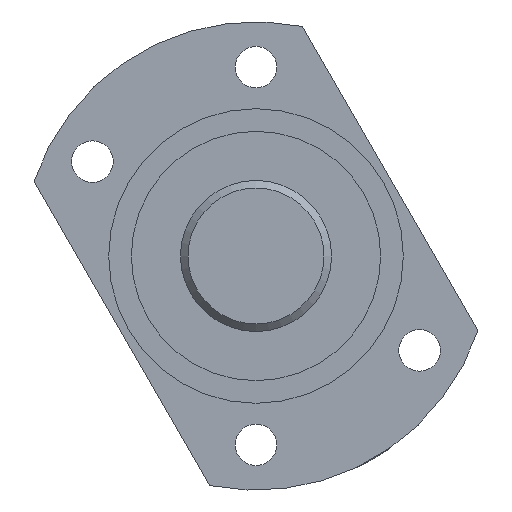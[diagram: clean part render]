
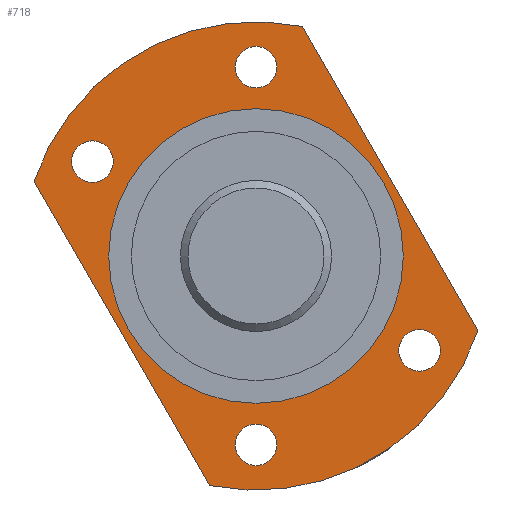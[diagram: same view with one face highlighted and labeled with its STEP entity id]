
A CAD part, left-side view. The second image highlights one B-rep face of the part: STEP entity #718.
In plain terms, the highlighted planar face has unit normal (-1, 0, 0).
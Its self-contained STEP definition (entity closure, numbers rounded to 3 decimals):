
#1 = EDGE_LOOP ( 'NONE', ( #794 ) ) ;
#14 = CARTESIAN_POINT ( 'NONE',  ( -75., -29.381, -9.889 ) ) ;
#37 = ORIENTED_EDGE ( 'NONE', *, *, #866, .T. ) ;
#40 = EDGE_LOOP ( 'NONE', ( #523 ) ) ;
#69 = VERTEX_POINT ( 'NONE', #286 ) ;
#83 = CARTESIAN_POINT ( 'NONE',  ( -75., 33.254, 16.597 ) ) ;
#90 = DIRECTION ( 'NONE',  ( 0., 0.5, 0.866 ) ) ;
#98 = ORIENTED_EDGE ( 'NONE', *, *, #214, .F. ) ;
#114 = DIRECTION ( 'NONE',  ( 1., 0., 0. ) ) ;
#136 = AXIS2_PLACEMENT_3D ( 'NONE', #1252, #594, #1012 ) ;
#139 = VERTEX_POINT ( 'NONE', #1185 ) ;
#153 = CARTESIAN_POINT ( 'NONE',  ( -75., 2.382, -26.375 ) ) ;
#191 = EDGE_LOOP ( 'NONE', ( #773 ) ) ;
#214 = EDGE_CURVE ( 'NONE', #499, #1208, #1247, .T. ) ;
#231 = CARTESIAN_POINT ( 'NONE',  ( -75., 2.382, 23.625 ) ) ;
#233 = CARTESIAN_POINT ( 'NONE',  ( -75., 0., 25. ) ) ;
#247 = VERTEX_POINT ( 'NONE', #231 ) ;
#276 = FACE_BOUND ( 'NONE', #40, .T. ) ;
#281 = DIRECTION ( 'NONE',  ( 0., 0.866, -0.5 ) ) ;
#283 = VECTOR ( 'NONE', #955, 1000. ) ;
#286 = CARTESIAN_POINT ( 'NONE',  ( -75., -19.269, -13.875 ) ) ;
#299 = DIRECTION ( 'NONE',  ( -1., 0., 0. ) ) ;
#300 = EDGE_LOOP ( 'NONE', ( #685, #37, #98, #477 ) ) ;
#306 = DIRECTION ( 'NONE',  ( 0., 0.866, -0.5 ) ) ;
#318 = DIRECTION ( 'NONE',  ( 1., 0., 0. ) ) ;
#359 = AXIS2_PLACEMENT_3D ( 'NONE', #1228, #485, #516 ) ;
#385 = CARTESIAN_POINT ( 'NONE',  ( -75., 0., -25. ) ) ;
#397 = PLANE ( 'NONE',  #859 ) ;
#402 = EDGE_CURVE ( 'NONE', #424, #1230, #1050, .T. ) ;
#406 = DIRECTION ( 'NONE',  ( 1., 0., 0. ) ) ;
#424 = VERTEX_POINT ( 'NONE', #1177 ) ;
#462 = VERTEX_POINT ( 'NONE', #153 ) ;
#477 = ORIENTED_EDGE ( 'NONE', *, *, #1166, .T. ) ;
#485 = DIRECTION ( 'NONE',  ( -1., 0., 0. ) ) ;
#490 = AXIS2_PLACEMENT_3D ( 'NONE', #233, #114, #1272 ) ;
#499 = VERTEX_POINT ( 'NONE', #1056 ) ;
#508 = AXIS2_PLACEMENT_3D ( 'NONE', #1266, #318, #740 ) ;
#516 = DIRECTION ( 'NONE',  ( 0., -0.866, 0.5 ) ) ;
#523 = ORIENTED_EDGE ( 'NONE', *, *, #918, .T. ) ;
#557 = CARTESIAN_POINT ( 'NONE',  ( -75., 24.032, 11.125 ) ) ;
#594 = DIRECTION ( 'NONE',  ( -1., 0., 0. ) ) ;
#603 = DIRECTION ( 'NONE',  ( 1., 0., 0. ) ) ;
#624 = ORIENTED_EDGE ( 'NONE', *, *, #798, .F. ) ;
#649 = ORIENTED_EDGE ( 'NONE', *, *, #1090, .T. ) ;
#685 = ORIENTED_EDGE ( 'NONE', *, *, #402, .F. ) ;
#713 = CARTESIAN_POINT ( 'NONE',  ( -75., 15.5, 26.847 ) ) ;
#718 = ADVANCED_FACE ( 'NONE', ( #1222, #1028, #276, #1022, #726, #831 ), #397, .F. ) ;
#719 = DIRECTION ( 'NONE',  ( 0., -0.866, 0.5 ) ) ;
#726 = FACE_BOUND ( 'NONE', #1319, .T. ) ;
#736 = EDGE_CURVE ( 'NONE', #462, #462, #1035, .T. ) ;
#740 = DIRECTION ( 'NONE',  ( 0., 0.866, -0.5 ) ) ;
#773 = ORIENTED_EDGE ( 'NONE', *, *, #736, .T. ) ;
#794 = ORIENTED_EDGE ( 'NONE', *, *, #862, .T. ) ;
#796 = CIRCLE ( 'NONE', #1300, 2.75 ) ;
#798 = EDGE_CURVE ( 'NONE', #139, #139, #1346, .T. ) ;
#804 = DIRECTION ( 'NONE',  ( 1., 0., 0. ) ) ;
#827 = CARTESIAN_POINT ( 'NONE',  ( -75., 0., 0. ) ) ;
#831 = FACE_BOUND ( 'NONE', #1093, .T. ) ;
#859 = AXIS2_PLACEMENT_3D ( 'NONE', #713, #603, #1128 ) ;
#862 = EDGE_CURVE ( 'NONE', #891, #891, #796, .T. ) ;
#866 = EDGE_CURVE ( 'NONE', #424, #1208, #886, .T. ) ;
#872 = CARTESIAN_POINT ( 'NONE',  ( -75., -2.254, 37.097 ) ) ;
#886 = CIRCLE ( 'NONE', #1057, 31. ) ;
#891 = VERTEX_POINT ( 'NONE', #557 ) ;
#908 = CIRCLE ( 'NONE', #359, 31. ) ;
#918 = EDGE_CURVE ( 'NONE', #247, #247, #1323, .T. ) ;
#955 = DIRECTION ( 'NONE',  ( 0., -0.5, -0.866 ) ) ;
#1012 = DIRECTION ( 'NONE',  ( 0., 0., -1. ) ) ;
#1022 = FACE_BOUND ( 'NONE', #191, .T. ) ;
#1028 = FACE_BOUND ( 'NONE', #1, .T. ) ;
#1035 = CIRCLE ( 'NONE', #1171, 2.75 ) ;
#1050 = LINE ( 'NONE', #872, #283 ) ;
#1056 = CARTESIAN_POINT ( 'NONE',  ( -75., 6.127, -30.389 ) ) ;
#1057 = AXIS2_PLACEMENT_3D ( 'NONE', #827, #299, #719 ) ;
#1090 = EDGE_CURVE ( 'NONE', #69, #69, #1099, .T. ) ;
#1093 = EDGE_LOOP ( 'NONE', ( #624 ) ) ;
#1099 = CIRCLE ( 'NONE', #508, 2.75 ) ;
#1128 = DIRECTION ( 'NONE',  ( 0., 1., 0. ) ) ;
#1166 = EDGE_CURVE ( 'NONE', #499, #1230, #908, .T. ) ;
#1169 = VECTOR ( 'NONE', #90, 1000. ) ;
#1171 = AXIS2_PLACEMENT_3D ( 'NONE', #385, #804, #306 ) ;
#1177 = CARTESIAN_POINT ( 'NONE',  ( -75., -6.127, 30.389 ) ) ;
#1185 = CARTESIAN_POINT ( 'NONE',  ( -75., 0., -19.5 ) ) ;
#1208 = VERTEX_POINT ( 'NONE', #1345 ) ;
#1222 = FACE_OUTER_BOUND ( 'NONE', #300, .T. ) ;
#1228 = CARTESIAN_POINT ( 'NONE',  ( -75., 0., 0. ) ) ;
#1229 = CARTESIAN_POINT ( 'NONE',  ( -75., 21.651, 12.5 ) ) ;
#1230 = VERTEX_POINT ( 'NONE', #14 ) ;
#1247 = LINE ( 'NONE', #83, #1169 ) ;
#1252 = CARTESIAN_POINT ( 'NONE',  ( -75., 0., 0. ) ) ;
#1266 = CARTESIAN_POINT ( 'NONE',  ( -75., -21.651, -12.5 ) ) ;
#1272 = DIRECTION ( 'NONE',  ( 0., 0.866, -0.5 ) ) ;
#1300 = AXIS2_PLACEMENT_3D ( 'NONE', #1229, #406, #281 ) ;
#1319 = EDGE_LOOP ( 'NONE', ( #649 ) ) ;
#1323 = CIRCLE ( 'NONE', #490, 2.75 ) ;
#1345 = CARTESIAN_POINT ( 'NONE',  ( -75., 29.381, 9.889 ) ) ;
#1346 = CIRCLE ( 'NONE', #136, 19.5 ) ;
